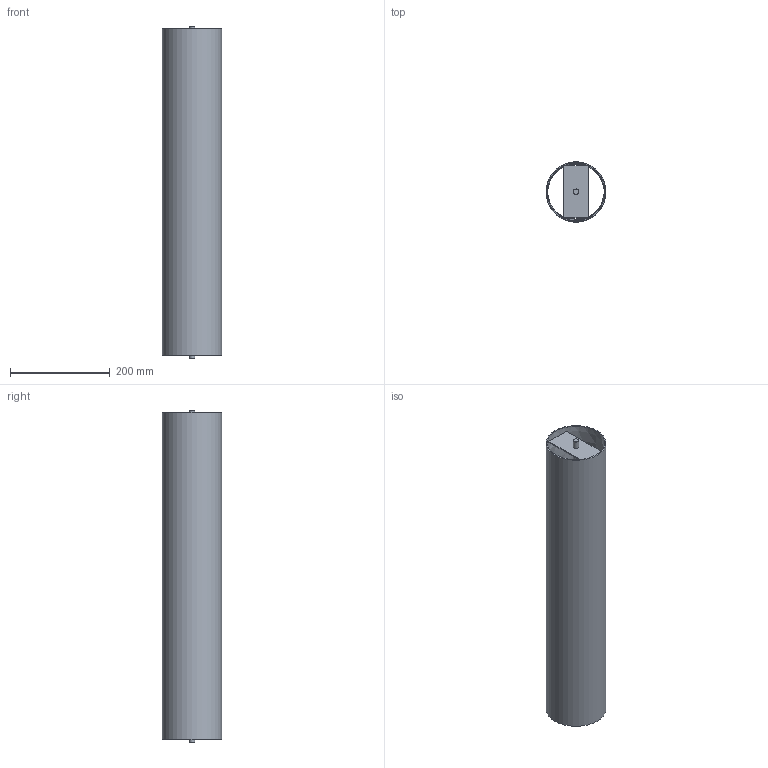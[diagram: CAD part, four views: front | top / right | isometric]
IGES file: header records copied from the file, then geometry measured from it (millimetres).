
Start section: Data from Parasolid IGES Translator 20.0.26, Copyright(c) 2006 Siemens P LM Software. All Rights Reserved.
Global section: file name: 45836.igs; native system: By Siemens PLM Incorporated; preprocessor: XPlus GENERIC/IGES 20.0.26; author: Noname; organization: Noname; date: 20210420.191332; units: millimetre
Bounding box: 120 x 120 x 666 mm (x, y, z)
Surface area: 531232.2 mm2 (no closed solid volume)
Topology: 0 solids, 0 shells, 21 faces, 126 edges, 118 vertices
Faces by surface type: extrusion 16, revolution 5
